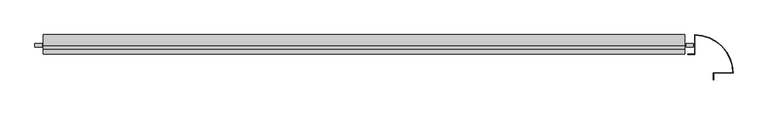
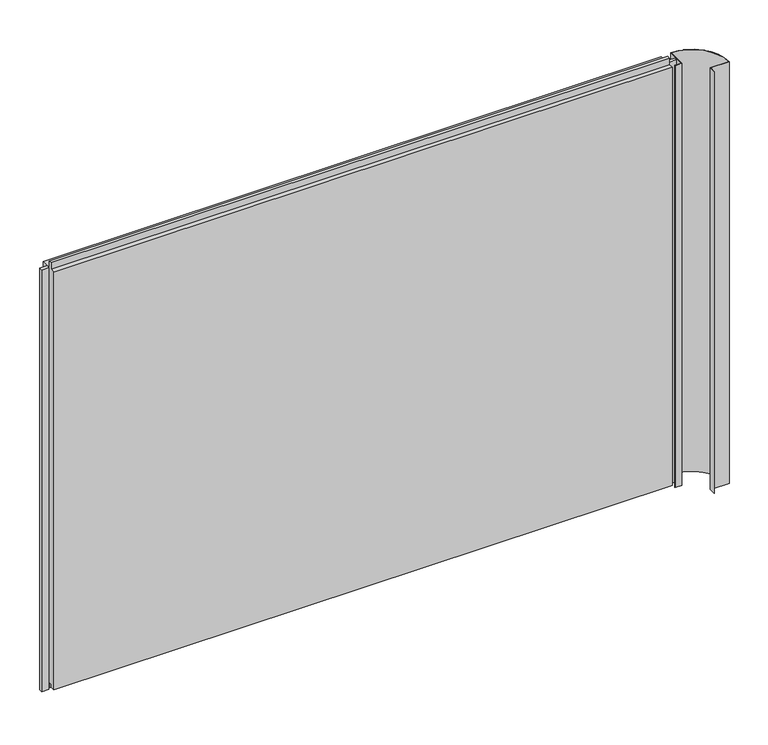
"""IFC4 building model written with IfcOpenShell, lengths in millimetres: plate geometry, Trimo_Qbiss Screen_Normal Panel-HORIZONTAL : HR - FB."""

from ifc_helpers import new_model, si_unit, point, frame, frame_2d, origin, place, context, project, spatial, polyline, circle_curve, trimmed, segment, composite_curve, outline, extrude, source, transform, mapped, element, save


def plate_ad4ab454(model_context):
    return source(origin(), model_context, "Body", "SweptSolid", [
        extrude(outline(polyline([(-840.5, 76.5978162), (-840.5, 67.8978162), (-859.5, 67.8978162), (-859.5, 76.5978162), (-840.5, 76.5978162)])), frame((0.0, 0.0, -1.0), z_axis=(0.0, 0.0, 1.0), x_axis=(1.0, 0.0, 0.0)), (0.0, 0.0, 1.0), 1200.0),
        extrude(outline(polyline([(828.0, 67.8978162), (828.0, 76.5978162), (847.0, 76.5978162), (847.0, 67.8978162), (828.0, 67.8978162)])), frame((0.0, 0.0, -1.0), z_axis=(0.0, 0.0, 1.0), x_axis=(1.0, 0.0, 0.0)), (0.0, 0.0, 1.0), 1200.0),
        extrude(outline(polyline([(71.0, 1196.0), (100.0, 1196.0), (100.0, 0.0), (72.0, 0.0), (72.0, 15.5), (62.0, 15.5), (62.0, 7.0), (50.0, 7.0), (50.0, 1196.0), (63.0, 1196.0), (63.0, 1214.5), (71.0, 1214.5), (71.0, 1196.0)])), frame((-837.5, 0.0, 0.0), z_axis=(1.0, 0.0, 0.0), x_axis=(0.0, 1.0, 0.0)), (0.0, 0.0, 1.0), 1662.5),
        extrude(outline(composite_curve([segment(polyline([(850.0, 50.0), (850.0, 100.0)]), True, "CONTINUOUS"), segment(trimmed(circle_curve(frame_2d((850.0, 0.0)), 100.0), [point((850.0, 100.0))], [point((950.0, 0.0))], False, "CARTESIAN"), True, "CONTINUOUS"), segment(polyline([(950.0, 0.0), (900.0, 0.0), (900.0, -17.5), (899.2, -17.5), (899.2, 0.8), (949.1967741, 0.8)]), True, "CONTINUOUS"), segment(trimmed(circle_curve(frame_2d((850.0, 0.0)), 99.2), [point((949.1967741, 0.8))], [point((850.8, 99.1967741))], True, "CARTESIAN"), True, "CONTINUOUS"), segment(polyline([(850.8, 99.1967741), (850.8, 49.2), (832.5, 49.2), (832.5, 50.0), (850.0, 50.0)]), True, "CONTINUOUS")], self_intersect=False)), frame((0.0, 0.0, -1.0), z_axis=(0.0, 0.0, 1.0), x_axis=(1.0, 0.0, 0.0)), (0.0, 0.0, 1.0), 1200.0),
    ])


if __name__ == "__main__":
    model = new_model("IFC4")
    model_context = context("Model", 3, world=origin())
    ifc_project = project(units=[si_unit("LENGTHUNIT", "METRE", prefix="MILLI")], contexts=[model_context])
    site = spatial("IfcSite", under=ifc_project)
    building = spatial("IfcBuilding", under=site)
    placement = place(None, origin())
    plate_shape = plate_ad4ab454(model_context)
    element("IfcPlate", 1, ObjectType="Trimo_Qbiss Screen_Normal Panel-HORIZONTAL : HR - FB", at=placement, inside=building, context=model_context, shape_type="MappedRepresentation", body=[
        mapped(plate_shape, transform((0.0, 0.0, 0.0), x_axis=(1.0, 0.0, 0.0), y_axis=(0.0, 1.0, 0.0), z_axis=(0.0, 0.0, 1.0))),
    ])
    save(model, "model.ifc")
